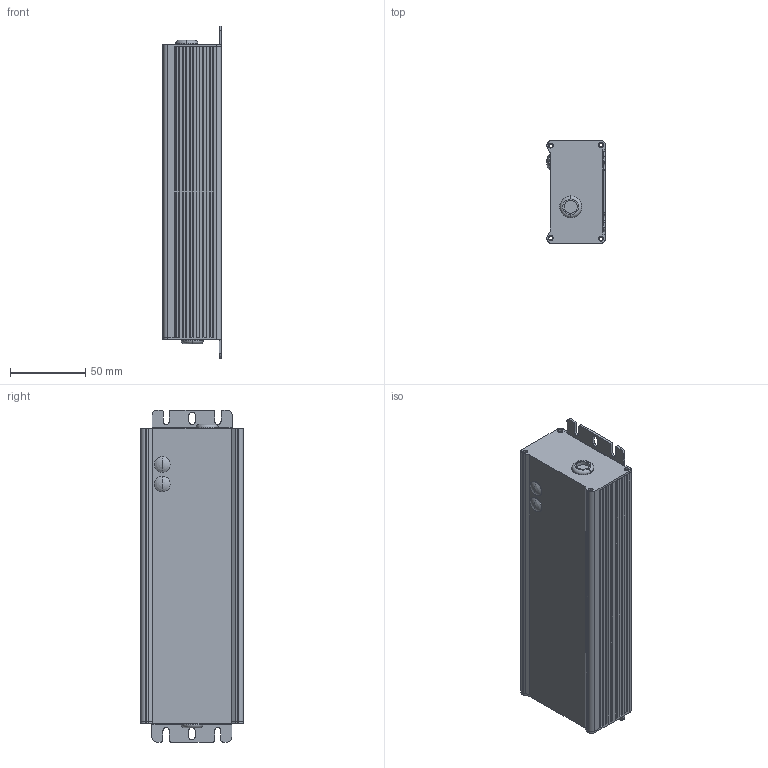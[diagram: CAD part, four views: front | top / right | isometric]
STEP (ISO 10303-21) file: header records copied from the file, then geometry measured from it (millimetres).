
FILE_DESCRIPTION(('Creo Elements/Direct Modeling STEP Export'),'2;1');
FILE_NAME('HEP-100-A.stp','2016-07-04T14:06:47',(''),(''),'PTC Creo Elements/Direct Modeling STEP processor for AP214 (Solid Model)','PTC Creo Elements/Direct Modeling 19.0 09-May-2014 (C) Parametric Technology GmbH','');
FILE_SCHEMA(('AUTOMOTIVE_DESIGN { 1 0 10303 214 1 1 1 1 }'));
Length unit declared in the file: millimetre
Products named in the file (3): RD0801007.1.1; CASE; HEP-100-A
Assembly tree (3 placements, depth 2):
  HEP-100-A
    CASE
    RD0801007.1.1  x2
Bounding box: 39.04 x 68.05 x 220 mm (x, y, z)
Volume: 93301.4 mm3; surface area: 101268.9 mm2
Topology: 3 solids, 3 shells, 297 faces, 819 edges, 530 vertices
Faces by surface type: plane 170, cylinder 95, cone 20, torus 8, sphere 4
Entity records: 8052 total; most frequent: ORIENTED_EDGE 1508, CARTESIAN_POINT 1359, DIRECTION 1262, EDGE_CURVE 754, VERTEX_POINT 488, VECTOR 480, LINE 480, AXIS2_PLACEMENT_3D 391
